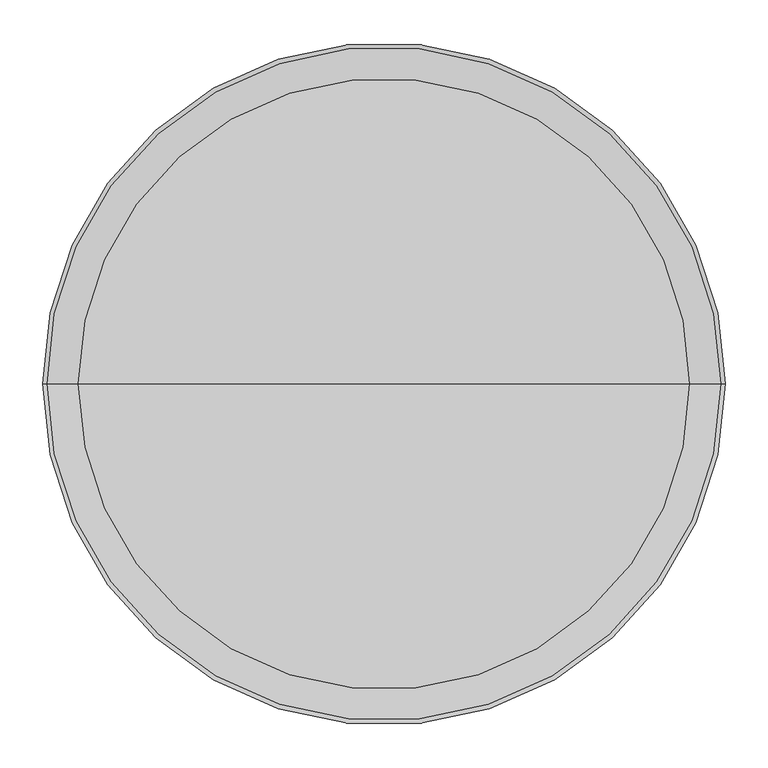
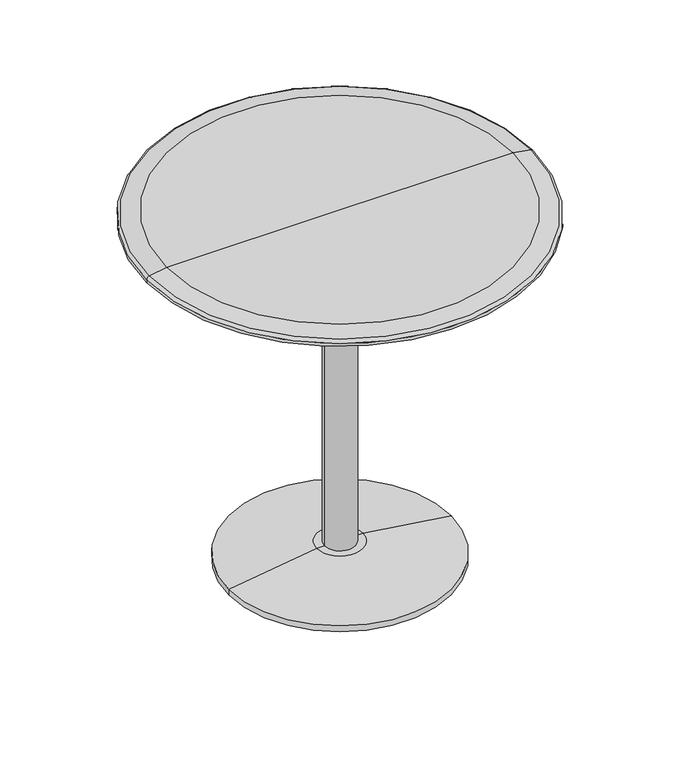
"""IFC4 building model written with IfcOpenShell, lengths in millimetres: furniture geometry, 桌子 - 圆形 : 0915mm 直径."""

import ifcopenshell
import ifcopenshell.guid

model = None  # the IFC model being written
_history = None  # IfcOwnerHistory: only IFC2X3 demands one
_inside = {}  # id of a spatial element -> (the spatial element, [elements in it])
_under = {}  # id of a project, library or spatial element -> (it, [spatial elements below it])
_declared = {}  # id of a project -> (the project, [libraries it declares])
_typed = {}  # id of a type object -> (the type object, [elements of that type])
_made_of = {}  # id of a material, layer set ... -> (it, [elements and type objects made of it])


def new_model(schema):
    """Start an empty IFC model of exactly this schema.

    Asked for "IFC4X3", IfcOpenShell would pick the latest addendum, in which some entities
    have other attributes; the version numbers below select the first issue.
    IFC2X3 requires an IfcOwnerHistory on every rooted entity: one is made here for all.
    """
    global model, _history
    if schema == "IFC4X3":
        model = ifcopenshell.file(schema_version=(4, 3, 0, 0))
    else:
        model = ifcopenshell.file(schema=schema)
    _inside.clear()
    _under.clear()
    _declared.clear()
    _typed.clear()
    _made_of.clear()
    _history = None
    if model.schema == "IFC2X3":
        org = make("IfcOrganization", Name="unknown")
        user = make(
            "IfcPersonAndOrganization",
            ThePerson=make("IfcPerson", FamilyName="unknown"),
            TheOrganization=org,
        )
        app = make(
            "IfcApplication",
            ApplicationDeveloper=org,
            Version="unknown",
            ApplicationFullName="unknown",
            ApplicationIdentifier="unknown",
        )
        _history = make(
            "IfcOwnerHistory",
            OwningUser=user,
            OwningApplication=app,
            ChangeAction="ADDED",
            CreationDate=0,
        )
    return model


def make(cls, **values):
    """One entity of the class cls with the attributes given. An attribute that is None is left unset."""
    return model.create_entity(
        cls, **{name: value for name, value in values.items() if value is not None}
    )


def rooted(cls, **values):
    """An entity with a GlobalId (a new one), such as an element, a storey or a relation."""
    return make(cls, GlobalId=ifcopenshell.guid.new(), OwnerHistory=_history, **values)


def si_unit(unit_type, name, prefix=None):
    """IfcSIUnit, for example si_unit("LENGTHUNIT", "METRE", prefix="MILLI")."""
    return make("IfcSIUnit", UnitType=unit_type, Prefix=prefix, Name=name)


def assignment(units):
    """IfcUnitAssignment: the units of a project."""
    return None if units is None else make("IfcUnitAssignment", Units=units)


def point(xyz):
    """IfcCartesianPoint."""
    return None if xyz is None else make("IfcCartesianPoint", Coordinates=xyz)


def direction(xyz):
    """IfcDirection."""
    return None if xyz is None else make("IfcDirection", DirectionRatios=xyz)


def frame(location, z_axis=None, x_axis=None):
    """IfcAxis2Placement3D, a coordinate frame: its origin and axes. An axis left out is left unset."""
    return make(
        "IfcAxis2Placement3D",
        Location=point(location),
        Axis=direction(z_axis),
        RefDirection=direction(x_axis),
    )


def frame_2d(location, x_axis=None):
    """IfcAxis2Placement2D, a coordinate frame in the plane: its origin and x axis."""
    return make(
        "IfcAxis2Placement2D", Location=point(location), RefDirection=direction(x_axis)
    )


def origin():
    """The frame at (0, 0, 0) with its axes left unset."""
    return frame((0.0, 0.0, 0.0))


def origin_2d():
    """The frame at (0, 0) in the plane with its x axis left unset."""
    return frame_2d((0.0, 0.0))


def place(relative_to, where):
    """IfcLocalPlacement: puts the frame where relative to a parent placement (None: the world)."""
    return make(
        "IfcLocalPlacement", PlacementRelTo=relative_to, RelativePlacement=where
    )


def context(
    kind, dimensions, precision=None, world=None, true_north=None, identifier=None
):
    """IfcGeometricRepresentationContext, for example the 3D "Model" context."""
    return make(
        "IfcGeometricRepresentationContext",
        ContextIdentifier=identifier,
        ContextType=kind,
        CoordinateSpaceDimension=dimensions,
        Precision=precision,
        WorldCoordinateSystem=world,
        TrueNorth=true_north,
    )


def project(units=None, contexts=None):
    """IfcProject with its units and contexts."""
    return rooted(
        "IfcProject",
        Name="project",
        RepresentationContexts=contexts,
        UnitsInContext=assignment(units),
    )


def spatial(cls, under=None, at=None, **own):
    """A site, building, storey or space (cls), placed at a placement, below another one or the project."""
    s = rooted(cls, ObjectPlacement=at, **own)
    if under is not None:
        _under.setdefault(under.id(), (under, []))[1].append(s)
    return s


def polyline(points):
    """IfcPolyline through the points."""
    return make("IfcPolyline", Points=[point(p) for p in points])


def circle_curve(where, radius):
    """IfcCircle in the frame where."""
    return make("IfcCircle", Position=where, Radius=radius)


def ellipse_curve(where, semi_axis1, semi_axis2):
    """IfcEllipse in the frame where."""
    return make(
        "IfcEllipse", Position=where, SemiAxis1=semi_axis1, SemiAxis2=semi_axis2
    )


def trimmed(basis, trim1, trim2, sense, master):
    """IfcTrimmedCurve: the piece of a basis curve between two trims."""
    return make(
        "IfcTrimmedCurve",
        BasisCurve=basis,
        Trim1=trim1,
        Trim2=trim2,
        SenseAgreement=sense,
        MasterRepresentation=master,
    )


def segment(curve, same_sense, transition):
    """IfcCompositeCurveSegment."""
    return make(
        "IfcCompositeCurveSegment",
        Transition=transition,
        SameSense=same_sense,
        ParentCurve=curve,
    )


def composite_curve(segments, self_intersect=None):
    """IfcCompositeCurve: segments joined end to end."""
    return make("IfcCompositeCurve", Segments=segments, SelfIntersect=self_intersect)


def outline(outer, holes=None, kind="AREA"):
    """IfcArbitraryClosedProfileDef: a profile drawn as a closed curve; with holes, ...WithVoids."""
    if holes is None:
        return make("IfcArbitraryClosedProfileDef", ProfileType=kind, OuterCurve=outer)
    return make(
        "IfcArbitraryProfileDefWithVoids",
        ProfileType=kind,
        OuterCurve=outer,
        InnerCurves=holes,
    )


def extrude(swept, where, along, depth):
    """IfcExtrudedAreaSolid: the profile swept, set in the frame where, extruded along a direction by depth."""
    return make(
        "IfcExtrudedAreaSolid",
        SweptArea=swept,
        Position=where,
        ExtrudedDirection=direction(along),
        Depth=depth,
    )


def shape(context_of_items, identifier, shape_type, items):
    """IfcShapeRepresentation: the items that make up one representation, for example the "Body"."""
    return make(
        "IfcShapeRepresentation",
        ContextOfItems=context_of_items,
        RepresentationIdentifier=identifier,
        RepresentationType=shape_type,
        Items=items,
    )


def source(mapping_origin, context_of_items, identifier, shape_type, items):
    """IfcRepresentationMap: a shape defined once, which mapped items show again and again."""
    return make(
        "IfcRepresentationMap",
        MappingOrigin=mapping_origin,
        MappedRepresentation=shape(context_of_items, identifier, shape_type, items),
    )


def transform(
    local_origin,
    x_axis=None,
    y_axis=None,
    z_axis=None,
    scale=None,
    scale2=None,
    scale3=None,
    uniform=True,
):
    """IfcCartesianTransformationOperator3D, or its non-uniform kind. x_axis, y_axis, z_axis: its Axis1, 2, 3."""
    if uniform:
        return make(
            "IfcCartesianTransformationOperator3D",
            Axis1=direction(x_axis),
            Axis2=direction(y_axis),
            LocalOrigin=point(local_origin),
            Scale=scale,
            Axis3=direction(z_axis),
        )
    return make(
        "IfcCartesianTransformationOperator3DnonUniform",
        Axis1=direction(x_axis),
        Axis2=direction(y_axis),
        LocalOrigin=point(local_origin),
        Scale=scale,
        Axis3=direction(z_axis),
        Scale2=scale2,
        Scale3=scale3,
    )


def mapped(mapping_source, mapping_target):
    """IfcMappedItem: shows the shape of a source again, moved by a transform."""
    return make(
        "IfcMappedItem", MappingSource=mapping_source, MappingTarget=mapping_target
    )


def made_of(thing, what):
    """Note that an element or type object is made of a material, layer set ...; save() writes the relation."""
    if what is not None:
        _made_of.setdefault(what.id(), (what, []))[1].append(thing)
    return thing


def element(
    cls,
    number,
    at=None,
    inside=None,
    cuts=None,
    type_object=None,
    material=None,
    context=None,
    identifier="Body",
    shape_type=None,
    held_by="IfcProductDefinitionShape",
    body=None,
    shapes=None,
    **own,
):
    """One element of the class cls, such as IfcWall. Its Tag is "e" and its number.

    at: its placement. inside: the storey or other place that contains it. cuts: it is an
    opening in that element (IfcRelVoidsElement). A single representation is given by context,
    identifier, shape_type and body (its items); several are given by shapes. held_by: the class
    of the entity that holds the representations. save() writes the other relations.
    """
    e = rooted(cls, Tag="e%d" % number, ObjectPlacement=at, **own)
    if body is not None:
        shapes = [shape(context, identifier, shape_type, body)]
    if shapes is not None:
        e.Representation = make(held_by, Representations=shapes)
    if inside is not None:
        _inside.setdefault(inside.id(), (inside, []))[1].append(e)
    if cuts is not None:
        rooted(
            "IfcRelVoidsElement", RelatingBuildingElement=cuts, RelatedOpeningElement=e
        )
    if type_object is not None:
        _typed.setdefault(type_object.id(), (type_object, []))[1].append(e)
    return made_of(e, material)


def aggregate(whole, parts):
    """IfcRelAggregates: a whole, such as a stair, and the parts it consists of."""
    return rooted("IfcRelAggregates", RelatingObject=whole, RelatedObjects=parts)


def save(model, path):
    """Write the relations noted so far, then the file.

    IfcRelAggregates (storeys below a building ...), IfcRelContainedInSpatialStructure (elements
    in a storey), IfcRelDefinesByType, IfcRelAssociatesMaterial and IfcRelDeclares: one each for
    every whole, place, type object, material and project.
    """
    for whole, parts in _under.values():
        aggregate(whole, parts)
    for where, things in _inside.values():
        rooted(
            "IfcRelContainedInSpatialStructure",
            RelatedElements=things,
            RelatingStructure=where,
        )
    for kind, things in _typed.values():
        rooted("IfcRelDefinesByType", RelatedObjects=things, RelatingType=kind)
    for what, things in _made_of.values():
        rooted("IfcRelAssociatesMaterial", RelatedObjects=things, RelatingMaterial=what)
    for by, libraries in _declared.values():
        rooted("IfcRelDeclares", RelatingContext=by, RelatedDefinitions=libraries)
    model.write(path)


def plane_surface(at):
    """IfcPlane: the flat surface through the origin of the frame at, square to its z axis."""
    return make("IfcPlane", Position=at)


def cylinder_surface(at, radius):
    """IfcCylindricalSurface: all points at the distance radius from the z axis of the frame at."""
    return make("IfcCylindricalSurface", Position=at, Radius=radius)


def revolved_surface(curve, axis_point, axis_direction):
    """IfcSurfaceOfRevolution: the curve turned about the line through axis_point along axis_direction."""
    return make(
        "IfcSurfaceOfRevolution",
        SweptCurve=make("IfcArbitraryOpenProfileDef", ProfileType="CURVE", Curve=curve),
        AxisPosition=make("IfcAxis1Placement", Location=point(axis_point), Axis=direction(axis_direction)),
    )


def advanced_brep(points, edges, surfaces, faces):
    """IfcAdvancedBrep: a solid bounded by faces that lie on surfaces and meet in shared edges.

    An edge is (start, end): straight between two places in points (the first is 0);
    or (start, end, curve); or (start, end, curve, False) where it runs against its curve.
    A face is (place in surfaces, loops), or (place, loops, False) where it looks against
    its surface's normal. A loop lists edges by number (the first is 1), with a minus sign
    where the edge is run from its end to its start. The first loop is the outer one.
    """
    corners = [point(p) for p in points]
    vertices = [make("IfcVertexPoint", VertexGeometry=c) for c in corners]
    made = []
    for start, end, *more in edges:
        made.append(
            make(
                "IfcEdgeCurve",
                EdgeStart=vertices[start],
                EdgeEnd=vertices[end],
                EdgeGeometry=more[0] if more else make("IfcPolyline", Points=[corners[start], corners[end]]),
                SameSense=more[1] if len(more) > 1 else True,
            )
        )
    hull = []
    for where, loops, *sense in faces:
        bounds = []
        for j, loop in enumerate(loops):
            ring = [make("IfcOrientedEdge", EdgeElement=made[abs(k) - 1], Orientation=k > 0) for k in loop]
            bounds.append(
                make(
                    "IfcFaceOuterBound" if j == 0 else "IfcFaceBound",
                    Bound=make("IfcEdgeLoop", EdgeList=ring),
                    Orientation=True,
                )
            )
        hull.append(make("IfcAdvancedFace", Bounds=bounds, FaceSurface=surfaces[where], SameSense=sense[0] if sense else True))
    return make("IfcAdvancedBrep", Outer=make("IfcClosedShell", CfsFaces=hull))


def furniture_e875d450(model_context):
    return source(origin(), model_context, "Body", "SolidModel", [
        extrude(outline(composite_curve([segment(trimmed(circle_curve(origin_2d(), 31.75), [point((-31.75, 0.0))], [point((31.75, 0.0))], False, "CARTESIAN"), True, "CONTINUOUS"), segment(trimmed(circle_curve(origin_2d(), 31.75), [point((31.75, 0.0))], [point((-31.75, 0.0))], False, "CARTESIAN"), True, "CONTINUOUS")], self_intersect=False)), frame((0.0, 0.0, 38.1), z_axis=(0.0, 0.0, 1.0), x_axis=(1.0, 0.0, 0.0)), (0.0, 0.0, 1.0), 704.85),
        advanced_brep(
        [(0.0, 0.0, 742.95), (-400.0, 0.0, 742.95), (400.0, 0.0, 742.95), (358.1011364, 0.0, 762.0), (-358.1011364, 0.0, 762.0), (0.0, 0.0, 762.0), (394.7526659, 0.0, 755.5373465), (-394.7526659, 0.0, 755.5373465), (400.0, 0.0, 749.2838172), (-400.0, 0.0, 749.2838172)],
        [
            (0, 1),
            (1, 2, circle_curve(frame((0.0, 0.0, 742.95), z_axis=(0.0, 0.0, -1.0), x_axis=(-1.0, 0.0, 0.0)), 400.0)),
            (2, 0),
            (2, 1, circle_curve(frame((0.0, 0.0, 742.95), z_axis=(0.0, 0.0, -1.0), x_axis=(-1.0, 0.0, 0.0)), 400.0)),
            (3, 4, circle_curve(frame((0.0, 0.0, 762.0), z_axis=(0.0, 0.0, 1.0), x_axis=(-1.0, 0.0, 0.0)), 358.1011364)),
            (4, 5),
            (5, 3),
            (4, 3, circle_curve(frame((0.0, 0.0, 762.0), z_axis=(0.0, 0.0, 1.0), x_axis=(-1.0, 0.0, 0.0)), 358.1011364)),
            (6, 7, circle_curve(frame((0.0, 0.0, 755.5373465), z_axis=(0.0, 0.0, 1.0), x_axis=(-1.0, 0.0, 0.0)), 394.7526659)),
            (7, 4),
            (3, 6),
            (7, 6, circle_curve(frame((0.0, 0.0, 755.5373465), z_axis=(0.0, 0.0, 1.0), x_axis=(-1.0, 0.0, 0.0)), 394.7526659)),
            (8, 9, circle_curve(frame((0.0, 0.0, 749.2838172), z_axis=(0.0, 0.0, 1.0), x_axis=(-1.0, 0.0, 0.0)), 400.0)),
            (9, 7, circle_curve(frame((-393.65, 0.0, 749.2838172), z_axis=(0.0, 1.0, 0.0), x_axis=(1.0, 0.0, 0.0)), 6.35)),
            (6, 8, circle_curve(frame((393.65, 0.0, 749.2838172), z_axis=(0.0, 1.0, 0.0), x_axis=(-1.0, 0.0, 0.0)), 6.35)),
            (9, 8, circle_curve(frame((0.0, 0.0, 749.2838172), z_axis=(0.0, 0.0, 1.0), x_axis=(-1.0, 0.0, 0.0)), 400.0)),
            (1, 9),
            (8, 2),
        ],
        [
            plane_surface(frame((0.0, 0.0, 742.95), z_axis=(0.0, 0.0, -1.0), x_axis=(-1.0, 0.0, 0.0))),
            plane_surface(frame((0.0, 0.0, 762.0), z_axis=(0.0, 0.0, 1.0), x_axis=(-1.0, 0.0, 0.0))),
            revolved_surface(polyline([(-358.1011364, 0.0, 762.0), (-394.7526659, 0.0, 755.5373465)]), (0.0, 0.0, 838.2), (0.0, 0.0, -1.0)),
            revolved_surface(trimmed(ellipse_curve(frame((-393.65, 0.0, 749.2838172), z_axis=(0.0, -1.0, 0.0), x_axis=(1.0, 0.0, 0.0)), 6.35, 6.35), [point((-394.7526659, 0.0, 755.5373465))], [point((-400.0, 0.0, 749.2838172))], True, "CARTESIAN"), (0.0, 0.0, 838.2), (0.0, 0.0, -1.0)),
            cylinder_surface(frame((0.0, 0.0, 838.2), z_axis=(0.0, 0.0, -1.0), x_axis=(-1.0, 0.0, 0.0)), 400.0),
        ],
        [
            (0, [[1, 2, 3]]),
            (0, [[-3, 4, -1]]),
            (1, [[5, 6, 7]]),
            (1, [[8, -7, -6]]),
            (2, [[9, 10, -5, 11]]),
            (2, [[12, -11, -8, -10]]),
            (3, [[13, 14, -9, 15]]),
            (3, [[16, -15, -12, -14]]),
            (4, [[-2, 17, -13, 18]]),
            (4, [[-4, -18, -16, -17]]),
        ],
    ),
        advanced_brep(
        [(0.0, 0.0, 0.0), (-230.0, 0.0, 0.0), (230.0, 0.0, 0.0), (47.625, 0.0, 38.1), (-47.625, 0.0, 38.1), (0.0, 0.0, 38.1), (230.0, 0.0, 12.7), (-230.0, 0.0, 12.7)],
        [
            (0, 1),
            (1, 2, circle_curve(frame((0.0, 0.0, 0.0), z_axis=(0.0, 0.0, -1.0), x_axis=(-1.0, 0.0, 0.0)), 230.0)),
            (2, 0),
            (2, 1, circle_curve(frame((0.0, 0.0, 0.0), z_axis=(0.0, 0.0, -1.0), x_axis=(-1.0, 0.0, 0.0)), 230.0)),
            (3, 4, circle_curve(frame((0.0, 0.0, 38.1), z_axis=(0.0, 0.0, 1.0), x_axis=(-1.0, 0.0, 0.0)), 47.625)),
            (4, 5),
            (5, 3),
            (4, 3, circle_curve(frame((0.0, 0.0, 38.1), z_axis=(0.0, 0.0, 1.0), x_axis=(-1.0, 0.0, 0.0)), 47.625)),
            (6, 7, circle_curve(frame((0.0, 0.0, 12.7), z_axis=(0.0, 0.0, 1.0), x_axis=(-1.0, 0.0, 0.0)), 230.0)),
            (7, 4),
            (3, 6),
            (7, 6, circle_curve(frame((0.0, 0.0, 12.7), z_axis=(0.0, 0.0, 1.0), x_axis=(-1.0, 0.0, 0.0)), 230.0)),
            (1, 7),
            (6, 2),
        ],
        [
            plane_surface(frame((0.0, 0.0, 0.0), z_axis=(0.0, 0.0, -1.0), x_axis=(-1.0, 0.0, 0.0))),
            plane_surface(frame((0.0, 0.0, 38.1), z_axis=(0.0, 0.0, 1.0), x_axis=(-1.0, 0.0, 0.0))),
            revolved_surface(polyline([(-47.625, 0.0, 38.1), (-230.0, 0.0, 12.7)]), (0.0, 0.0, 215.9), (0.0, 0.0, -1.0)),
            cylinder_surface(frame((0.0, 0.0, 215.9), z_axis=(0.0, 0.0, -1.0), x_axis=(-1.0, 0.0, 0.0)), 230.0),
        ],
        [
            (0, [[1, 2, 3]]),
            (0, [[-3, 4, -1]]),
            (1, [[5, 6, 7]]),
            (1, [[8, -7, -6]]),
            (2, [[9, 10, -5, 11]]),
            (2, [[12, -11, -8, -10]]),
            (3, [[-2, 13, -9, 14]]),
            (3, [[-4, -14, -12, -13]]),
        ],
    ),
    ])


if __name__ == "__main__":
    model = new_model("IFC4")
    model_context = context("Model", 3, world=origin())
    ifc_project = project(units=[si_unit("LENGTHUNIT", "METRE", prefix="MILLI")], contexts=[model_context])
    site = spatial("IfcSite", under=ifc_project)
    building = spatial("IfcBuilding", under=site)
    placement = place(None, origin())
    furniture_shape = furniture_e875d450(model_context)
    element("IfcFurniture", 1, ObjectType="桌子 - 圆形 : 0915mm 直径", at=placement, inside=building, context=model_context, shape_type="MappedRepresentation", body=[
        mapped(furniture_shape, transform((0.0, 0.0, 0.0), x_axis=(1.0, 0.0, 0.0), y_axis=(0.0, 1.0, 0.0), z_axis=(0.0, 0.0, 1.0))),
    ])
    save(model, "model.ifc")
